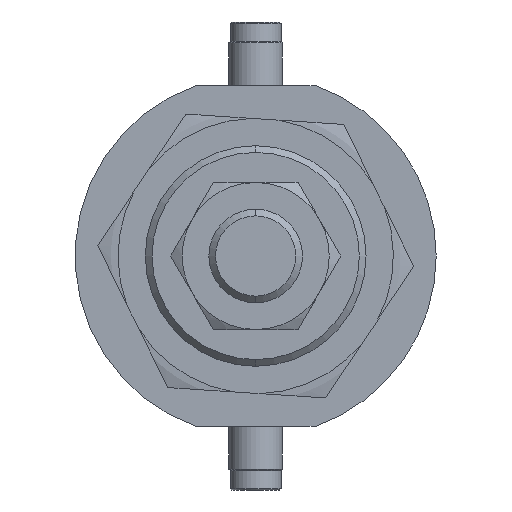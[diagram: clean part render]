
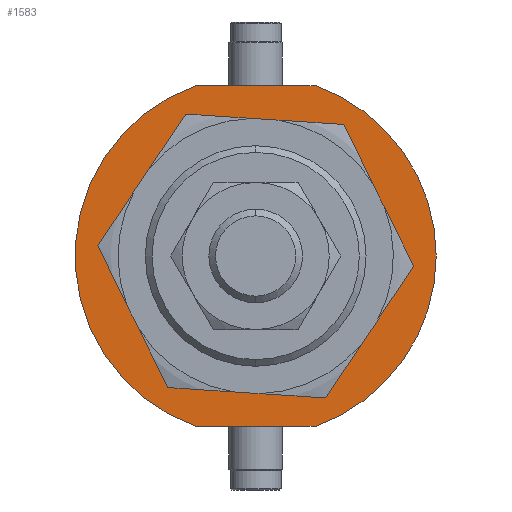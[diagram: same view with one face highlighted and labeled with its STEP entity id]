
A CAD part, left-side view. The second image highlights one B-rep face of the part: STEP entity #1583.
In plain terms, the highlighted planar face has unit normal (-1, 0, 0) as drawn and (0, 1, 0) by its records, which use the part's own axes.
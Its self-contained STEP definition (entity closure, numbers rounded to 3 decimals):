
#22 = ORIENTED_EDGE ( 'NONE', *, *, #3318, .T. ) ;
#33 = VERTEX_POINT ( 'NONE', #1921 ) ;
#150 = ORIENTED_EDGE ( 'NONE', *, *, #853, .T. ) ;
#231 = CARTESIAN_POINT ( 'NONE',  ( 0., 4.5, 0. ) ) ;
#292 = CARTESIAN_POINT ( 'NONE',  ( 0., 4.5, 16.5 ) ) ;
#302 = AXIS2_PLACEMENT_3D ( 'NONE', #2547, #1247, #479 ) ;
#377 = DIRECTION ( 'NONE',  ( 0., 1., 0. ) ) ;
#406 = CARTESIAN_POINT ( 'NONE',  ( 0., 4.5, 0. ) ) ;
#466 = DIRECTION ( 'NONE',  ( 0., 1., 0. ) ) ;
#479 = DIRECTION ( 'NONE',  ( 0., 0., 1. ) ) ;
#598 = VERTEX_POINT ( 'NONE', #1687 ) ;
#719 = CIRCLE ( 'NONE', #302, 16.5 ) ;
#722 = DIRECTION ( 'NONE',  ( 0., 0., 1. ) ) ;
#802 = AXIS2_PLACEMENT_3D ( 'NONE', #406, #2840, #959 ) ;
#853 = EDGE_CURVE ( 'NONE', #3226, #4042, #3231, .T. ) ;
#959 = DIRECTION ( 'NONE',  ( 0., 0., 1. ) ) ;
#1114 = CIRCLE ( 'NONE', #802, 16.5 ) ;
#1115 = EDGE_CURVE ( 'NONE', #33, #3914, #2049, .T. ) ;
#1232 = CARTESIAN_POINT ( 'NONE',  ( 0., 4.5, 0. ) ) ;
#1247 = DIRECTION ( 'NONE',  ( 0., 1., 0. ) ) ;
#1296 = AXIS2_PLACEMENT_3D ( 'NONE', #1875, #1504, #3069 ) ;
#1381 = CARTESIAN_POINT ( 'NONE',  ( -25.5, 4.5, 8.874 ) ) ;
#1504 = DIRECTION ( 'NONE',  ( 0., 1., 0. ) ) ;
#1540 = EDGE_CURVE ( 'NONE', #3155, #598, #719, .T. ) ;
#1583 = ADVANCED_FACE ( 'NONE', ( #2686, #3611 ), #3406, .T. ) ;
#1598 = DIRECTION ( 'NONE',  ( 0., 0., 1. ) ) ;
#1637 = VERTEX_POINT ( 'NONE', #1381 ) ;
#1687 = CARTESIAN_POINT ( 'NONE',  ( 0., 4.5, -16.5 ) ) ;
#1723 = EDGE_CURVE ( 'NONE', #3914, #1637, #2047, .T. ) ;
#1741 = DIRECTION ( 'NONE',  ( 0., 0., 1. ) ) ;
#1853 = DIRECTION ( 'NONE',  ( 0., 0., 1. ) ) ;
#1875 = CARTESIAN_POINT ( 'NONE',  ( 0., 4.5, 0. ) ) ;
#1878 = EDGE_CURVE ( 'NONE', #1637, #3226, #2292, .T. ) ;
#1921 = CARTESIAN_POINT ( 'NONE',  ( 25.5, 4.5, -8.874 ) ) ;
#1924 = VECTOR ( 'NONE', #4005, 1000. ) ;
#2047 = LINE ( 'NONE', #2590, #3187 ) ;
#2049 = CIRCLE ( 'NONE', #2196, 27. ) ;
#2196 = AXIS2_PLACEMENT_3D ( 'NONE', #3492, #377, #1741 ) ;
#2292 = CIRCLE ( 'NONE', #3238, 27. ) ;
#2315 = CARTESIAN_POINT ( 'NONE',  ( 0., 4.5, 27. ) ) ;
#2460 = CARTESIAN_POINT ( 'NONE',  ( 25.5, 4.5, -8.874 ) ) ;
#2547 = CARTESIAN_POINT ( 'NONE',  ( 0., 4.5, 0. ) ) ;
#2590 = CARTESIAN_POINT ( 'NONE',  ( -25.5, 4.5, -8.874 ) ) ;
#2602 = EDGE_CURVE ( 'NONE', #598, #3155, #1114, .T. ) ;
#2609 = CARTESIAN_POINT ( 'NONE',  ( 25.5, 4.5, 8.874 ) ) ;
#2644 = ORIENTED_EDGE ( 'NONE', *, *, #1540, .F. ) ;
#2686 = FACE_BOUND ( 'NONE', #4211, .T. ) ;
#2698 = AXIS2_PLACEMENT_3D ( 'NONE', #231, #3770, #1598 ) ;
#2803 = ORIENTED_EDGE ( 'NONE', *, *, #2602, .F. ) ;
#2840 = DIRECTION ( 'NONE',  ( 0., 1., 0. ) ) ;
#2874 = LINE ( 'NONE', #2460, #1924 ) ;
#3013 = CARTESIAN_POINT ( 'NONE',  ( -25.5, 4.5, -8.874 ) ) ;
#3069 = DIRECTION ( 'NONE',  ( 0., 0., 1. ) ) ;
#3108 = ORIENTED_EDGE ( 'NONE', *, *, #1115, .T. ) ;
#3155 = VERTEX_POINT ( 'NONE', #292 ) ;
#3187 = VECTOR ( 'NONE', #722, 1000. ) ;
#3226 = VERTEX_POINT ( 'NONE', #2315 ) ;
#3231 = CIRCLE ( 'NONE', #2698, 27. ) ;
#3238 = AXIS2_PLACEMENT_3D ( 'NONE', #1232, #466, #1853 ) ;
#3251 = EDGE_LOOP ( 'NONE', ( #3108, #3751, #4131, #150, #22 ) ) ;
#3318 = EDGE_CURVE ( 'NONE', #4042, #33, #2874, .T. ) ;
#3406 = PLANE ( 'NONE',  #1296 ) ;
#3492 = CARTESIAN_POINT ( 'NONE',  ( 0., 4.5, 0. ) ) ;
#3611 = FACE_OUTER_BOUND ( 'NONE', #3251, .T. ) ;
#3751 = ORIENTED_EDGE ( 'NONE', *, *, #1723, .T. ) ;
#3770 = DIRECTION ( 'NONE',  ( 0., 1., 0. ) ) ;
#3914 = VERTEX_POINT ( 'NONE', #3013 ) ;
#4005 = DIRECTION ( 'NONE',  ( 0., 0., -1. ) ) ;
#4042 = VERTEX_POINT ( 'NONE', #2609 ) ;
#4131 = ORIENTED_EDGE ( 'NONE', *, *, #1878, .T. ) ;
#4211 = EDGE_LOOP ( 'NONE', ( #2644, #2803 ) ) ;
